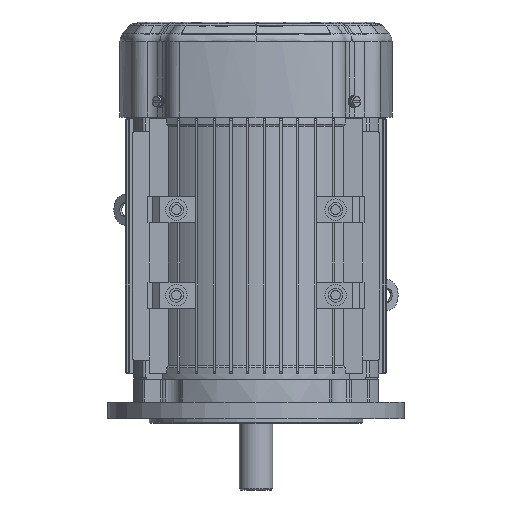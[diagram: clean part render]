
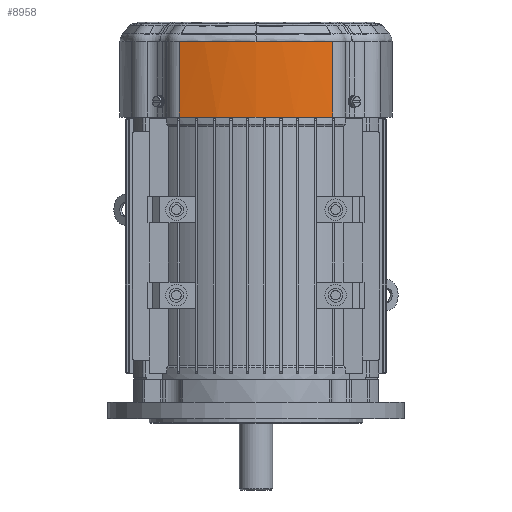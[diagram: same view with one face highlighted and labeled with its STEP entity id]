
A CAD part, left-side view. The second image highlights one B-rep face of the part: STEP entity #8958.
In plain terms, the highlighted cylindrical face has radius 214.5 mm (diameter 429 mm), a partial arc.
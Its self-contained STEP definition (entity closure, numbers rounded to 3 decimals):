
#3480=B_SPLINE_CURVE_WITH_KNOTS('',3,(#143476,#143477,#143478,#143479),
 .UNSPECIFIED.,.F.,.F.,(4,4),(0.,1.),.UNSPECIFIED.);
#3498=B_SPLINE_CURVE_WITH_KNOTS('',3,(#145176,#145177,#145178,#145179,#145180,
#145181,#145182,#145183,#145184,#145185,#145186,#145187,#145188,#145189,
#145190),.UNSPECIFIED.,.F.,.F.,(4,1,1,1,1,1,1,1,1,1,1,1,4),(0.,0.137,
0.274,0.411,0.548,0.685,
0.823,0.96,0.977,0.985,
0.994,0.998,1.),.UNSPECIFIED.);
#4476=CYLINDRICAL_SURFACE('',#82696,214.5);
#8958=ADVANCED_FACE('',(#14870),#4476,.T.);
#14870=FACE_OUTER_BOUND('',#19666,.T.);
#19666=EDGE_LOOP('',(#39170,#39171,#39172,#39173,#39174));
#24405=CIRCLE('',#82668,214.5);
#39170=ORIENTED_EDGE('',*,*,#62843,.T.);
#39171=ORIENTED_EDGE('',*,*,#63028,.F.);
#39172=ORIENTED_EDGE('',*,*,#63029,.F.);
#39173=ORIENTED_EDGE('',*,*,#62992,.T.);
#39174=ORIENTED_EDGE('',*,*,#63030,.T.);
#53562=VERTEX_POINT('',#133674);
#53563=VERTEX_POINT('',#133676);
#53658=VERTEX_POINT('',#143475);
#53659=VERTEX_POINT('',#143480);
#53675=VERTEX_POINT('',#145175);
#62843=EDGE_CURVE('',#53563,#53562,#24405,.T.);
#62992=EDGE_CURVE('',#53659,#53658,#3480,.T.);
#63028=EDGE_CURVE('',#53675,#53562,#70035,.T.);
#63029=EDGE_CURVE('',#53659,#53675,#3498,.T.);
#63030=EDGE_CURVE('',#53658,#53563,#70036,.T.);
#70035=LINE('',#145174,#76146);
#70036=LINE('',#145191,#76147);
#76146=VECTOR('',#99144,1.);
#76147=VECTOR('',#99145,1.);
#82668=AXIS2_PLACEMENT_3D('',#133675,#99072,#99073);
#82696=AXIS2_PLACEMENT_3D('',#145192,#99146,#99147);
#99072=DIRECTION('',(0.,0.,1.));
#99073=DIRECTION('',(1.,0.,0.));
#99144=DIRECTION('',(0.,0.,-1.));
#99145=DIRECTION('',(0.,0.,-1.));
#99146=DIRECTION('',(0.,0.,-1.));
#99147=DIRECTION('',(-1.,0.,0.));
#133674=CARTESIAN_POINT('',(-104.532,-64.628,221.));
#133675=CARTESIAN_POINT('',(100.,0.,221.));
#133676=CARTESIAN_POINT('',(-104.532,64.628,221.));
#143475=CARTESIAN_POINT('',(-104.532,64.628,284.491));
#143476=CARTESIAN_POINT('',(-114.5,0.,284.491));
#143477=CARTESIAN_POINT('',(-114.5,21.883,284.491));
#143478=CARTESIAN_POINT('',(-111.125,43.763,284.491));
#143479=CARTESIAN_POINT('',(-104.532,64.628,284.491));
#143480=CARTESIAN_POINT('',(-114.5,0.,284.491));
#145174=CARTESIAN_POINT('',(-104.532,-64.628,298.));
#145175=CARTESIAN_POINT('',(-104.532,-64.628,284.491));
#145176=CARTESIAN_POINT('',(-114.5,0.,284.491));
#145177=CARTESIAN_POINT('',(-114.5,-2.99,284.491));
#145178=CARTESIAN_POINT('',(-114.375,-8.958,284.491));
#145179=CARTESIAN_POINT('',(-113.816,-17.875,284.491));
#145180=CARTESIAN_POINT('',(-112.887,-26.762,284.491));
#145181=CARTESIAN_POINT('',(-111.585,-35.622,284.491));
#145182=CARTESIAN_POINT('',(-109.907,-44.456,284.491));
#145183=CARTESIAN_POINT('',(-107.847,-53.266,284.491));
#145184=CARTESIAN_POINT('',(-106.111,-59.491,284.491));
#145185=CARTESIAN_POINT('',(-105.051,-62.964,284.491));
#145186=CARTESIAN_POINT('',(-104.825,-63.695,284.491));
#145187=CARTESIAN_POINT('',(-104.682,-64.151,284.491));
#145188=CARTESIAN_POINT('',(-104.585,-64.463,284.491));
#145189=CARTESIAN_POINT('',(-104.544,-64.591,284.491));
#145190=CARTESIAN_POINT('',(-104.532,-64.628,284.491));
#145191=CARTESIAN_POINT('',(-104.532,64.628,298.));
#145192=CARTESIAN_POINT('',(100.,0.,298.));
